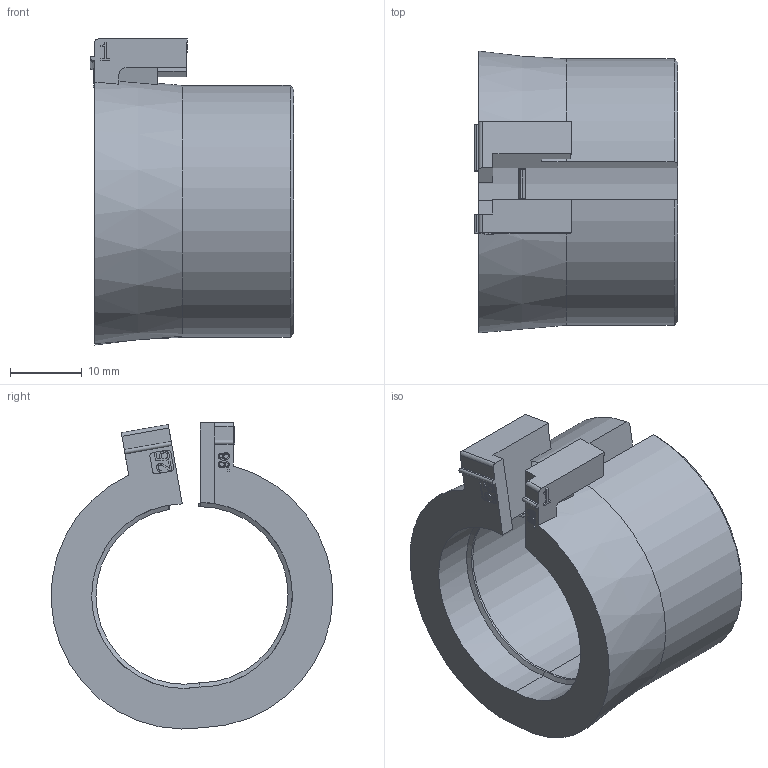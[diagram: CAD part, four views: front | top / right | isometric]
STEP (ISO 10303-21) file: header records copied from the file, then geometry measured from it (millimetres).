
FILE_DESCRIPTION(/* description */ (''),/* implementation_level */ '2;1');
FILE_NAME(/* name */ 'C:\SapWorkDir\Inventor\MP1\ConvertTempPath\87_12_121374_00_A_220530_KDT-X 25.stp',/* time_stamp */ '2022-05-31T14:58:16+02:00',/* author */ ('BAUER'),/* organization */ (''),/* preprocessor_version */ 'ST-DEVELOPER v16.13',/* originating_system */ 'Autodesk Inventor 2018',/* authorisation */ '');
FILE_SCHEMA (('AUTOMOTIVE_DESIGN { 1 0 10303 214 3 1 1 }'));
Length unit declared in the file: millimetre
Products named in the file (1): 121374
Bounding box: 28.4 x 39.36 x 42.76 mm (x, y, z)
Volume: 13507.1 mm3; surface area: 7180.7 mm2
Topology: 1 solids, 1 shells, 163 faces, 435 edges, 284 vertices
Faces by surface type: plane 85, bspline 46, cylinder 24, cone 8
Entity records: 5377 total; most frequent: CARTESIAN_POINT 1500, ORIENTED_EDGE 870, DIRECTION 630, EDGE_CURVE 435, VERTEX_POINT 284, LINE 278, VECTOR 278, AXIS2_PLACEMENT_3D 176
